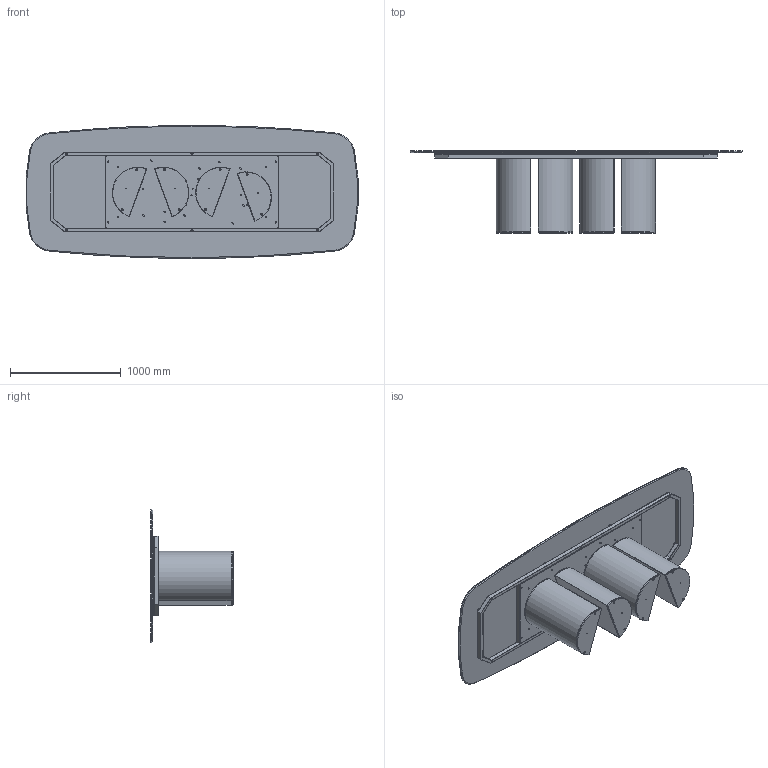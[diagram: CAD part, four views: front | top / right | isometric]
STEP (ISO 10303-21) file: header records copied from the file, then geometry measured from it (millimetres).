
FILE_DESCRIPTION (( 'STEP AP203' ), '1' );
FILE_NAME ('PL44C.STEP', '2024-08-07T13:57:40', ( '' ), ( '' ), 'SwSTEP 2.0', 'SolidWorks 2022', '' );
FILE_SCHEMA (( 'CONFIG_CONTROL_DESIGN' ));
Length unit declared in the file: millimetre
Products named in the file (14): M8xXXmm_M8x20mm; Assieme Basamento PLAI_Basamento per tavoli; 434070-00-PIEDINO TPV GOMMA NERO D. 30x8max18_filo estetico; M8xXXmm_hex_M8X60mm; PLA000000ZOC-01-PLAI ZOCCOLO DELLA BASE; PL44C; K4XCMXX-00-Piani Sagomati in ceramica_3000 x 1200; COLLO TELAIO UNIVERSALE TTAV07 CON FERRAMENTA_MTG TOP CRISTALLO VERNICIATO-CERAMICA; TTAV07-04-TELAIO X TAVOLI PLAI ONDA NOA 300; M8xXXmm_hex_M8X20mm; TTAV07_02-01-VASSOIO TELAIO  PLAI ONDA NOA 300; PLA000000BAS-00-PLAI BASE GREZZA; TTAV07_01-04-STRUTTURA TAVOLI PLAI ONDA NOA 300; rondella M8_8X24
Assembly tree (37 placements, depth 4):
  PL44C
    COLLO TELAIO UNIVERSALE TTAV07 CON FERRAMENTA_MTG TOP CRISTALLO VERNICIATO-CERAMICA
      TTAV07-04-TELAIO X TAVOLI PLAI ONDA NOA 300
        TTAV07_01-04-STRUTTURA TAVOLI PLAI ONDA NOA 300
        TTAV07_02-01-VASSOIO TELAIO  PLAI ONDA NOA 300
      434070-00-PIEDINO TPV GOMMA NERO D. 30x8max18_filo estetico  x8
    Assieme Basamento PLAI_Basamento per tavoli  x4
      PLA000000BAS-00-PLAI BASE GREZZA
      PLA000000ZOC-01-PLAI ZOCCOLO DELLA BASE
      M8xXXmm_hex_M8X60mm
      M8xXXmm_hex_M8X20mm
    rondella M8_8X24  x8
    M8xXXmm_M8x20mm  x8
    K4XCMXX-00-Piani Sagomati in ceramica_3000 x 1200
Bounding box: 2991.72 x 740 x 1200 mm (x, y, z)
Volume: 70889156 mm3; surface area: 25255966.8 mm2
Topology: 64 solids, 64 shells, 1361 faces, 3085 edges, 1830 vertices
Faces by surface type: plane 570, cylinder 462, cone 169, torus 144, sphere 16
Entity records: 19816 total; most frequent: DIRECTION 3248, CARTESIAN_POINT 3083, ORIENTED_EDGE 2890, EDGE_CURVE 1445, AXIS2_PLACEMENT_3D 1213, VERTEX_POINT 898, LINE 822, VECTOR 822
